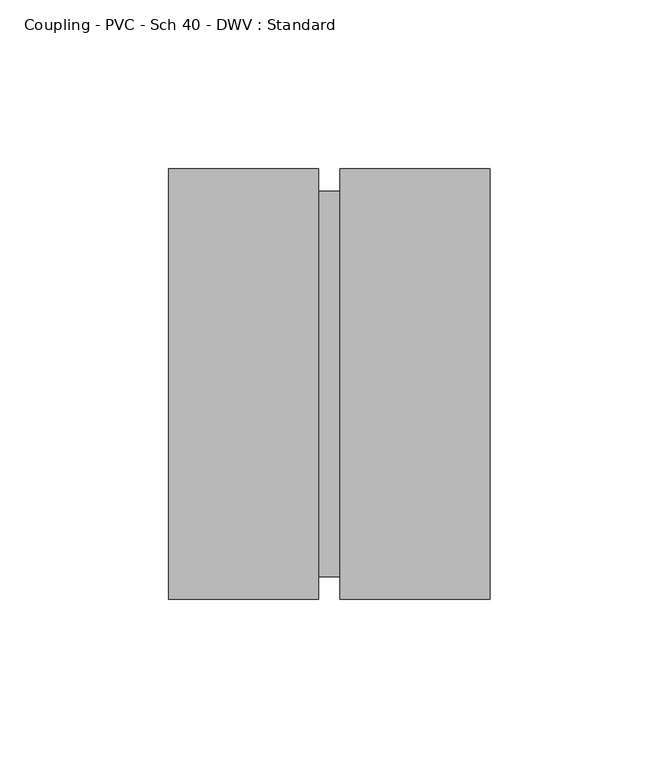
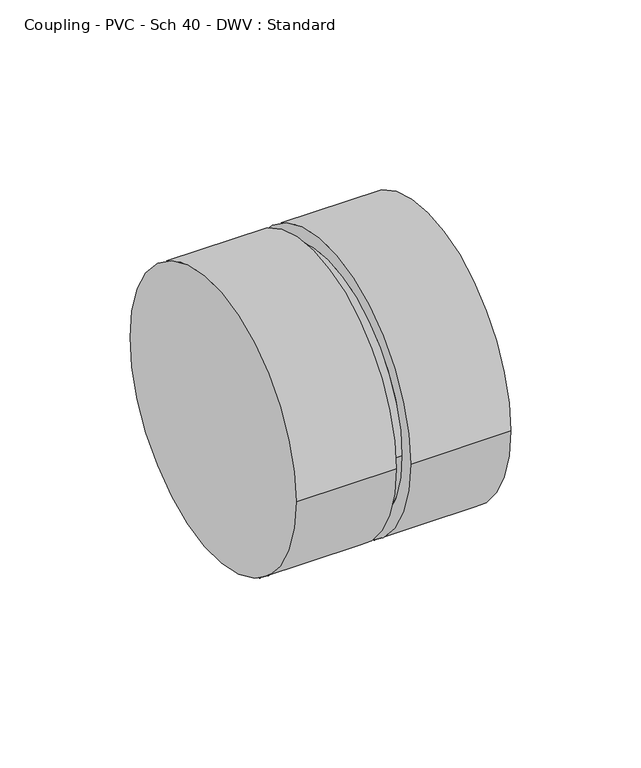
"""IFC4 building model written with IfcOpenShell, lengths in millimetres: pipe fitting geometry, Coupling - PVC - Sch 40 - DWV : Standard."""

import ifcopenshell
import ifcopenshell.guid

model = None  # the IFC model being written
_history = None  # IfcOwnerHistory: only IFC2X3 demands one
_inside = {}  # id of a spatial element -> (the spatial element, [elements in it])
_under = {}  # id of a project, library or spatial element -> (it, [spatial elements below it])
_declared = {}  # id of a project -> (the project, [libraries it declares])
_typed = {}  # id of a type object -> (the type object, [elements of that type])
_made_of = {}  # id of a material, layer set ... -> (it, [elements and type objects made of it])


def new_model(schema):
    """Start an empty IFC model of exactly this schema.

    Asked for "IFC4X3", IfcOpenShell would pick the latest addendum, in which some entities
    have other attributes; the version numbers below select the first issue.
    IFC2X3 requires an IfcOwnerHistory on every rooted entity: one is made here for all.
    """
    global model, _history
    if schema == "IFC4X3":
        model = ifcopenshell.file(schema_version=(4, 3, 0, 0))
    else:
        model = ifcopenshell.file(schema=schema)
    _inside.clear()
    _under.clear()
    _declared.clear()
    _typed.clear()
    _made_of.clear()
    _history = None
    if model.schema == "IFC2X3":
        org = make("IfcOrganization", Name="unknown")
        user = make(
            "IfcPersonAndOrganization",
            ThePerson=make("IfcPerson", FamilyName="unknown"),
            TheOrganization=org,
        )
        app = make(
            "IfcApplication",
            ApplicationDeveloper=org,
            Version="unknown",
            ApplicationFullName="unknown",
            ApplicationIdentifier="unknown",
        )
        _history = make(
            "IfcOwnerHistory",
            OwningUser=user,
            OwningApplication=app,
            ChangeAction="ADDED",
            CreationDate=0,
        )
    return model


def make(cls, **values):
    """One entity of the class cls with the attributes given. An attribute that is None is left unset."""
    return model.create_entity(
        cls, **{name: value for name, value in values.items() if value is not None}
    )


def rooted(cls, **values):
    """An entity with a GlobalId (a new one), such as an element, a storey or a relation."""
    return make(cls, GlobalId=ifcopenshell.guid.new(), OwnerHistory=_history, **values)


def si_unit(unit_type, name, prefix=None):
    """IfcSIUnit, for example si_unit("LENGTHUNIT", "METRE", prefix="MILLI")."""
    return make("IfcSIUnit", UnitType=unit_type, Prefix=prefix, Name=name)


def assignment(units):
    """IfcUnitAssignment: the units of a project."""
    return None if units is None else make("IfcUnitAssignment", Units=units)


def point(xyz):
    """IfcCartesianPoint."""
    return None if xyz is None else make("IfcCartesianPoint", Coordinates=xyz)


def direction(xyz):
    """IfcDirection."""
    return None if xyz is None else make("IfcDirection", DirectionRatios=xyz)


def frame(location, z_axis=None, x_axis=None):
    """IfcAxis2Placement3D, a coordinate frame: its origin and axes. An axis left out is left unset."""
    return make(
        "IfcAxis2Placement3D",
        Location=point(location),
        Axis=direction(z_axis),
        RefDirection=direction(x_axis),
    )


def origin():
    """The frame at (0, 0, 0) with its axes left unset."""
    return frame((0.0, 0.0, 0.0))


def place(relative_to, where):
    """IfcLocalPlacement: puts the frame where relative to a parent placement (None: the world)."""
    return make(
        "IfcLocalPlacement", PlacementRelTo=relative_to, RelativePlacement=where
    )


def context(
    kind, dimensions, precision=None, world=None, true_north=None, identifier=None
):
    """IfcGeometricRepresentationContext, for example the 3D "Model" context."""
    return make(
        "IfcGeometricRepresentationContext",
        ContextIdentifier=identifier,
        ContextType=kind,
        CoordinateSpaceDimension=dimensions,
        Precision=precision,
        WorldCoordinateSystem=world,
        TrueNorth=true_north,
    )


def project(units=None, contexts=None):
    """IfcProject with its units and contexts."""
    return rooted(
        "IfcProject",
        Name="project",
        RepresentationContexts=contexts,
        UnitsInContext=assignment(units),
    )


def spatial(cls, under=None, at=None, **own):
    """A site, building, storey or space (cls), placed at a placement, below another one or the project."""
    s = rooted(cls, ObjectPlacement=at, **own)
    if under is not None:
        _under.setdefault(under.id(), (under, []))[1].append(s)
    return s


def circle_curve(where, radius):
    """IfcCircle in the frame where."""
    return make("IfcCircle", Position=where, Radius=radius)


def shape(context_of_items, identifier, shape_type, items):
    """IfcShapeRepresentation: the items that make up one representation, for example the "Body"."""
    return make(
        "IfcShapeRepresentation",
        ContextOfItems=context_of_items,
        RepresentationIdentifier=identifier,
        RepresentationType=shape_type,
        Items=items,
    )


def source(mapping_origin, context_of_items, identifier, shape_type, items):
    """IfcRepresentationMap: a shape defined once, which mapped items show again and again."""
    return make(
        "IfcRepresentationMap",
        MappingOrigin=mapping_origin,
        MappedRepresentation=shape(context_of_items, identifier, shape_type, items),
    )


def transform(
    local_origin,
    x_axis=None,
    y_axis=None,
    z_axis=None,
    scale=None,
    scale2=None,
    scale3=None,
    uniform=True,
):
    """IfcCartesianTransformationOperator3D, or its non-uniform kind. x_axis, y_axis, z_axis: its Axis1, 2, 3."""
    if uniform:
        return make(
            "IfcCartesianTransformationOperator3D",
            Axis1=direction(x_axis),
            Axis2=direction(y_axis),
            LocalOrigin=point(local_origin),
            Scale=scale,
            Axis3=direction(z_axis),
        )
    return make(
        "IfcCartesianTransformationOperator3DnonUniform",
        Axis1=direction(x_axis),
        Axis2=direction(y_axis),
        LocalOrigin=point(local_origin),
        Scale=scale,
        Axis3=direction(z_axis),
        Scale2=scale2,
        Scale3=scale3,
    )


def mapped(mapping_source, mapping_target):
    """IfcMappedItem: shows the shape of a source again, moved by a transform."""
    return make(
        "IfcMappedItem", MappingSource=mapping_source, MappingTarget=mapping_target
    )


def made_of(thing, what):
    """Note that an element or type object is made of a material, layer set ...; save() writes the relation."""
    if what is not None:
        _made_of.setdefault(what.id(), (what, []))[1].append(thing)
    return thing


def element(
    cls,
    number,
    at=None,
    inside=None,
    cuts=None,
    type_object=None,
    material=None,
    context=None,
    identifier="Body",
    shape_type=None,
    held_by="IfcProductDefinitionShape",
    body=None,
    shapes=None,
    **own,
):
    """One element of the class cls, such as IfcWall. Its Tag is "e" and its number.

    at: its placement. inside: the storey or other place that contains it. cuts: it is an
    opening in that element (IfcRelVoidsElement). A single representation is given by context,
    identifier, shape_type and body (its items); several are given by shapes. held_by: the class
    of the entity that holds the representations. save() writes the other relations.
    """
    e = rooted(cls, Tag="e%d" % number, ObjectPlacement=at, **own)
    if body is not None:
        shapes = [shape(context, identifier, shape_type, body)]
    if shapes is not None:
        e.Representation = make(held_by, Representations=shapes)
    if inside is not None:
        _inside.setdefault(inside.id(), (inside, []))[1].append(e)
    if cuts is not None:
        rooted(
            "IfcRelVoidsElement", RelatingBuildingElement=cuts, RelatedOpeningElement=e
        )
    if type_object is not None:
        _typed.setdefault(type_object.id(), (type_object, []))[1].append(e)
    return made_of(e, material)


def aggregate(whole, parts):
    """IfcRelAggregates: a whole, such as a stair, and the parts it consists of."""
    return rooted("IfcRelAggregates", RelatingObject=whole, RelatedObjects=parts)


def save(model, path):
    """Write the relations noted so far, then the file.

    IfcRelAggregates (storeys below a building ...), IfcRelContainedInSpatialStructure (elements
    in a storey), IfcRelDefinesByType, IfcRelAssociatesMaterial and IfcRelDeclares: one each for
    every whole, place, type object, material and project.
    """
    for whole, parts in _under.values():
        aggregate(whole, parts)
    for where, things in _inside.values():
        rooted(
            "IfcRelContainedInSpatialStructure",
            RelatedElements=things,
            RelatingStructure=where,
        )
    for kind, things in _typed.values():
        rooted("IfcRelDefinesByType", RelatedObjects=things, RelatingType=kind)
    for what, things in _made_of.values():
        rooted("IfcRelAssociatesMaterial", RelatedObjects=things, RelatingMaterial=what)
    for by, libraries in _declared.values():
        rooted("IfcRelDeclares", RelatingContext=by, RelatedDefinitions=libraries)
    model.write(path)


def plane_surface(at):
    """IfcPlane: the flat surface through the origin of the frame at, square to its z axis."""
    return make("IfcPlane", Position=at)


def cylinder_surface(at, radius):
    """IfcCylindricalSurface: all points at the distance radius from the z axis of the frame at."""
    return make("IfcCylindricalSurface", Position=at, Radius=radius)


def advanced_brep(points, edges, surfaces, faces):
    """IfcAdvancedBrep: a solid bounded by faces that lie on surfaces and meet in shared edges.

    An edge is (start, end): straight between two places in points (the first is 0);
    or (start, end, curve); or (start, end, curve, False) where it runs against its curve.
    A face is (place in surfaces, loops), or (place, loops, False) where it looks against
    its surface's normal. A loop lists edges by number (the first is 1), with a minus sign
    where the edge is run from its end to its start. The first loop is the outer one.
    """
    corners = [point(p) for p in points]
    vertices = [make("IfcVertexPoint", VertexGeometry=c) for c in corners]
    made = []
    for start, end, *more in edges:
        made.append(
            make(
                "IfcEdgeCurve",
                EdgeStart=vertices[start],
                EdgeEnd=vertices[end],
                EdgeGeometry=more[0] if more else make("IfcPolyline", Points=[corners[start], corners[end]]),
                SameSense=more[1] if len(more) > 1 else True,
            )
        )
    hull = []
    for where, loops, *sense in faces:
        bounds = []
        for j, loop in enumerate(loops):
            ring = [make("IfcOrientedEdge", EdgeElement=made[abs(k) - 1], Orientation=k > 0) for k in loop]
            bounds.append(
                make(
                    "IfcFaceOuterBound" if j == 0 else "IfcFaceBound",
                    Bound=make("IfcEdgeLoop", EdgeList=ring),
                    Orientation=True,
                )
            )
        hull.append(make("IfcAdvancedFace", Bounds=bounds, FaceSurface=surfaces[where], SameSense=sense[0] if sense else True))
    return make("IfcAdvancedBrep", Outer=make("IfcClosedShell", CfsFaces=hull))


def coupling_pvc_sch_40_dwv_standard_81254d96(model_context):
    return source(origin(), model_context, "Body", "AdvancedBrep", [
        advanced_brep(
        [(-47.625, -63.754, 0.0), (-47.625, 63.754, 0.0), (-3.175, -63.754, 0.0), (-3.175, 63.754, 0.0), (-3.175, -57.15, 0.0), (-3.175, 57.15, 0.0), (3.175, -57.15, 0.0), (3.175, 57.15, 0.0), (3.175, -63.754, 0.0), (3.175, 63.754, 0.0), (47.625, -63.754, 0.0), (47.625, 63.754, 0.0)],
        [
            (0, 1, circle_curve(frame((-47.625, 0.0, 0.0), z_axis=(-1.0, 0.0, 0.0), x_axis=(0.0, 1.0, 0.0)), 63.754)),
            (1, 0, circle_curve(frame((-47.625, 0.0, 0.0), z_axis=(-1.0, 0.0, 0.0), x_axis=(0.0, 1.0, 0.0)), 63.754)),
            (2, 3, circle_curve(frame((-3.175, 0.0, 0.0), z_axis=(1.0, 0.0, 0.0), x_axis=(0.0, 1.0, 0.0)), 63.754)),
            (3, 2, circle_curve(frame((-3.175, 0.0, 0.0), z_axis=(1.0, 0.0, 0.0), x_axis=(0.0, 1.0, 0.0)), 63.754)),
            (4, 5, circle_curve(frame((-3.175, 0.0, 0.0), z_axis=(-1.0, 0.0, 0.0), x_axis=(0.0, 1.0, 0.0)), 57.15)),
            (5, 4, circle_curve(frame((-3.175, 0.0, 0.0), z_axis=(-1.0, 0.0, 0.0), x_axis=(0.0, 1.0, 0.0)), 57.15)),
            (0, 2),
            (3, 1),
            (4, 6),
            (6, 7, circle_curve(frame((3.175, 0.0, 0.0), z_axis=(-1.0, 0.0, 0.0), x_axis=(0.0, 1.0, 0.0)), 57.15)),
            (7, 5),
            (7, 6, circle_curve(frame((3.175, 0.0, 0.0), z_axis=(-1.0, 0.0, 0.0), x_axis=(0.0, 1.0, 0.0)), 57.15)),
            (8, 9, circle_curve(frame((3.175, 0.0, 0.0), z_axis=(-1.0, 0.0, 0.0), x_axis=(0.0, 1.0, 0.0)), 63.754)),
            (9, 8, circle_curve(frame((3.175, 0.0, 0.0), z_axis=(-1.0, 0.0, 0.0), x_axis=(0.0, 1.0, 0.0)), 63.754)),
            (10, 11, circle_curve(frame((47.625, 0.0, 0.0), z_axis=(1.0, 0.0, 0.0), x_axis=(0.0, 1.0, 0.0)), 63.754)),
            (11, 10, circle_curve(frame((47.625, 0.0, 0.0), z_axis=(1.0, 0.0, 0.0), x_axis=(0.0, 1.0, 0.0)), 63.754)),
            (8, 10),
            (11, 9),
        ],
        [
            plane_surface(frame((-47.625, 0.0, 0.0), z_axis=(-1.0, 0.0, 0.0), x_axis=(0.0, 0.0, 1.0))),
            plane_surface(frame((-3.175, 0.0, 0.0), z_axis=(1.0, 0.0, 0.0), x_axis=(0.0, 0.0, 1.0))),
            cylinder_surface(frame((-47.625, 0.0, 0.0), z_axis=(-1.0, 0.0, 0.0), x_axis=(0.0, 1.0, 0.0)), 63.754),
            cylinder_surface(frame((-3.175, 0.0, 0.0), z_axis=(-1.0, 0.0, 0.0), x_axis=(0.0, 1.0, 0.0)), 57.15),
            plane_surface(frame((3.175, 0.0, 0.0), z_axis=(-1.0, 0.0, 0.0), x_axis=(0.0, 0.0, 1.0))),
            plane_surface(frame((47.625, 0.0, 0.0), z_axis=(1.0, 0.0, 0.0), x_axis=(0.0, 0.0, 1.0))),
            cylinder_surface(frame((3.175, 0.0, 0.0), z_axis=(-1.0, 0.0, 0.0), x_axis=(0.0, 1.0, 0.0)), 63.754),
        ],
        [
            (0, [[1, 2]]),
            (1, [[3, 4], [5, 6]]),
            (2, [[-1, 7, -4, 8]]),
            (2, [[-2, -8, -3, -7]]),
            (3, [[9, 10, 11, -5]]),
            (3, [[-9, -6, -11, 12]]),
            (4, [[13, 14], [-10, -12]]),
            (5, [[15, 16]]),
            (6, [[-13, 17, -16, 18]]),
            (6, [[-14, -18, -15, -17]]),
        ],
    ),
    ])


if __name__ == "__main__":
    model = new_model("IFC4")
    model_context = context("Model", 3, world=origin())
    ifc_project = project(units=[si_unit("LENGTHUNIT", "METRE", prefix="MILLI")], contexts=[model_context])
    site = spatial("IfcSite", under=ifc_project)
    building = spatial("IfcBuilding", under=site)
    placement = place(None, origin())
    coupling_pvc_sch_40_dwv_standard_shape = coupling_pvc_sch_40_dwv_standard_81254d96(model_context)
    element("IfcPipeFitting", 1, ObjectType="Coupling - PVC - Sch 40 - DWV : Standard", at=placement, inside=building, context=model_context, shape_type="MappedRepresentation", body=[
        mapped(coupling_pvc_sch_40_dwv_standard_shape, transform((0.0, 0.0, 0.0), x_axis=(1.0, 0.0, 0.0), y_axis=(0.0, 1.0, 0.0), z_axis=(0.0, 0.0, 1.0))),
    ])
    save(model, "model.ifc")
